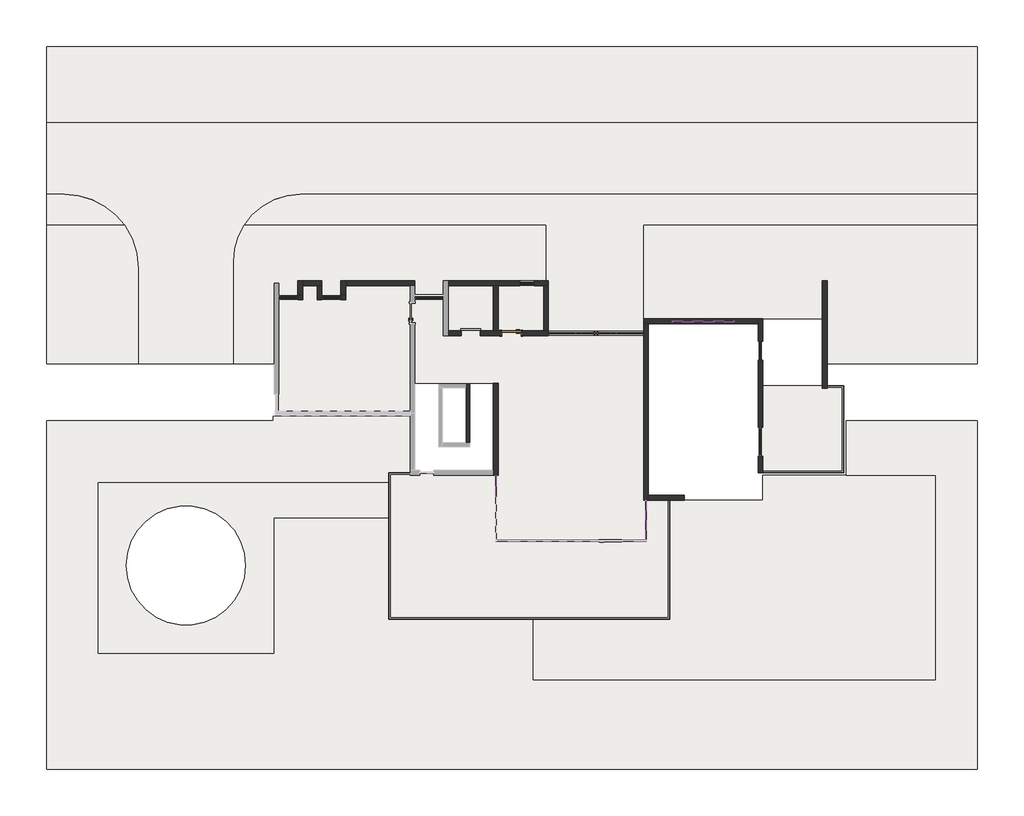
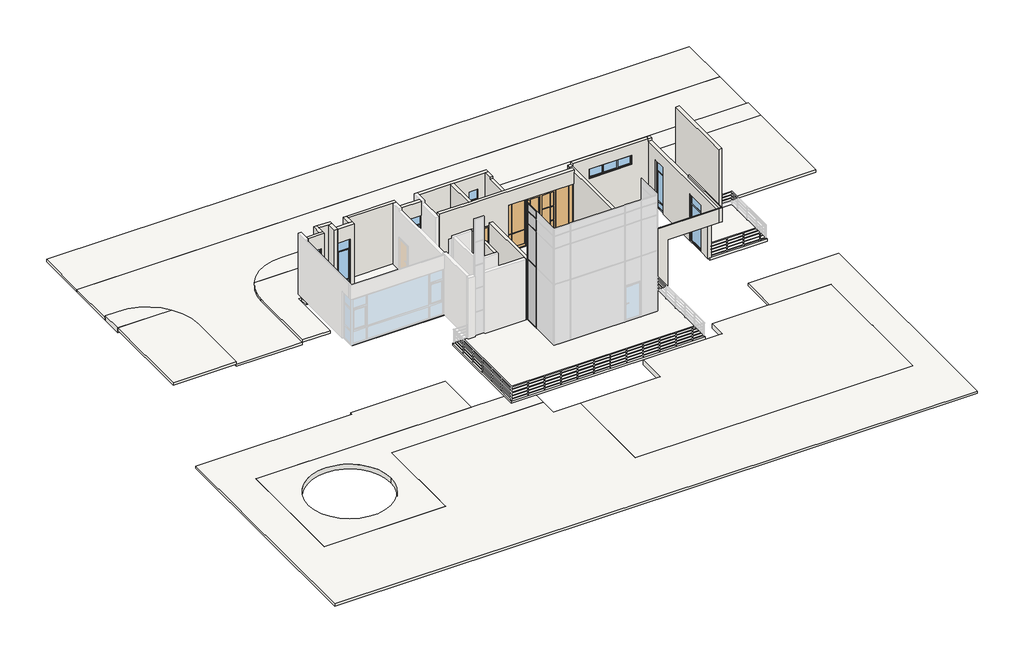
# One storey, part 2 of 4: 19 walls, 14 members, 7 slabs, 7 windows, 4 plates, 2 doors.
"""IFC4 building model written with IfcOpenShell, lengths in millimetres."""

from ifc_helpers import new_model, si_unit, point, frame, frame_2d, origin, origin_with_axes, place, context, project, spatial, polyline, circle_curve, trimmed, segment, composite_curve, outline, extrude, faceted_brep, transform, mapped, element, save
from components import m0921_1d156f18, mlc4030_d43cdeba, mlc4030_f3af6898, mlc4030_237699f2, member_050b8304, member_364816fe, member_d9064eb3, member_c456a22c, member_f9daae58, member_d54f5d39, member_5fb01ee3, member_a96ad222, member_d0a898d2, member_633aa1a8, member_63391c1b, plate_da5828c7, plate_ef581a69, plate_3ef9a45c, plate_da88b804, c0630_fb5b9edb, c0830_e6cf9a24, c1230_67e573e4, c2606_43b70124

model = new_model("IFC4")

# Units and contexts
model_context = context("Model", 3, world=origin())
ifc_project = project(units=[si_unit("LENGTHUNIT", "METRE", prefix="MILLI")], contexts=[model_context])

# Site, building, storey
site = spatial("IfcSite", under=ifc_project)
building = spatial("IfcBuilding", under=site)
storey = spatial("IfcBuildingStorey", under=building, Name="首层", Elevation=0.0)

# Doors
placement = place(None, origin())
m0921_shape = m0921_1d156f18(model_context)
element("IfcDoor", 1, ObjectType="单嵌板木门 1 : M0921", at=placement, inside=storey, context=model_context, shape_type="MappedRepresentation", body=[
    mapped(m0921_shape, transform((1859.0524305, -1121.4172231, 0.0), x_axis=(-1.0, 0.0, 0.0), y_axis=(0.0, -1.0, 0.0), z_axis=(0.0, 0.0, 1.0))),
])
mlc4030_shape = mlc4030_d43cdeba(model_context)
mlc4030_2_shape = mlc4030_f3af6898(model_context)
mlc4030_3_shape = mlc4030_237699f2(model_context)
element("IfcDoor", 2, ObjectType="双面嵌板连窗玻璃门 4 : MLC4030", at=placement, inside=storey, context=model_context, shape_type="MappedRepresentation", body=[
    mapped(mlc4030_shape, transform((5409.0524305, -1121.4172231, 0.0), x_axis=(-1.0, 0.0, 0.0), y_axis=(0.0, -1.0, 0.0), z_axis=(0.0, 0.0, 1.0))),
    mapped(mlc4030_2_shape, transform((5409.0524305, -1121.4172231, 0.0), x_axis=(-1.0, 0.0, 0.0), y_axis=(0.0, -1.0, 0.0), z_axis=(0.0, 0.0, 1.0))),
    mapped(mlc4030_3_shape, transform((5409.0524305, -1121.4172231, 0.0), x_axis=(-1.0, 0.0, 0.0), y_axis=(0.0, -1.0, 0.0), z_axis=(0.0, 0.0, 1.0))),
])

# Members
member_shape = member_050b8304(model_context)
element("IfcMember", 3, ObjectType="矩形竖梃 : 30mm 正方形", at=placement, inside=storey, context=model_context, shape_type="MappedRepresentation", body=[
    mapped(member_shape, transform((1209.0524305, -7988.0838897, 3900.0), x_axis=(0.0, -1.0, 0.0), y_axis=(-1.0, 0.0, 0.0), z_axis=(0.0, 0.0, -1.0))),
])
member_2_shape = member_364816fe(model_context)
element("IfcMember", 4, ObjectType="矩形竖梃 : 30mm 正方形", at=placement, inside=storey, context=model_context, shape_type="MappedRepresentation", body=[
    mapped(member_2_shape, transform((1209.0524305, -7071.4172231, 6200.0), x_axis=(0.0, 1.0, 0.0), y_axis=(-1.0, 0.0, 0.0), z_axis=(0.0, 0.0, 1.0))),
])
member_3_shape = member_d9064eb3(model_context)
element("IfcMember", 5, ObjectType="矩形竖梃 : 30mm 正方形", at=placement, inside=storey, context=model_context, shape_type="MappedRepresentation", body=[
    mapped(member_3_shape, transform((1209.0524305, -7988.0838897, 7000.0), x_axis=(0.0, -1.0, 0.0), y_axis=(-1.0, 0.0, 0.0), z_axis=(0.0, 0.0, -1.0))),
])
member_4_shape = member_c456a22c(model_context)
element("IfcMember", 6, ObjectType="矩形竖梃 : 30mm 正方形", at=placement, inside=storey, context=model_context, shape_type="MappedRepresentation", body=[
    mapped(member_4_shape, transform((1209.0524305, -7071.4172231, 7500.0), x_axis=(0.0, 1.0, 0.0), y_axis=(-1.0, 0.0, 0.0), z_axis=(0.0, 0.0, 1.0))),
])
member_5_shape = member_f9daae58(model_context)
element("IfcMember", 7, ObjectType="矩形竖梃 : 30mm 正方形", at=placement, inside=storey, context=model_context, shape_type="MappedRepresentation", body=[
    mapped(member_5_shape, transform((1209.0524305, -7988.0838897, 6200.0), x_axis=(0.0, -1.0, 0.0), y_axis=(-1.0, 0.0, 0.0), z_axis=(0.0, 0.0, -1.0))),
])
member_6_shape = member_d54f5d39(model_context)
element("IfcMember", 8, ObjectType="矩形竖梃 : 30mm 正方形", at=placement, inside=storey, context=model_context, shape_type="MappedRepresentation", body=[
    mapped(member_6_shape, transform((1209.0524305, -7071.4172231, 7000.0), x_axis=(0.0, 1.0, 0.0), y_axis=(-1.0, 0.0, 0.0), z_axis=(0.0, 0.0, 1.0))),
])
member_7_shape = member_5fb01ee3(model_context)
element("IfcMember", 9, ObjectType="矩形竖梃 : 30mm 正方形", at=placement, inside=storey, context=model_context, shape_type="MappedRepresentation", body=[
    mapped(member_7_shape, transform((1209.0524305, -7101.4172231, 0.0), x_axis=(0.0, 0.0, -1.0), y_axis=(-1.0, 0.0, 0.0), z_axis=(0.0, 1.0, 0.0))),
])
element("IfcMember", 10, ObjectType="矩形竖梃 : 30mm 正方形", at=placement, inside=storey, context=model_context, shape_type="MappedRepresentation", body=[
    mapped(member_7_shape, transform((1209.0524305, -7973.0838897, 7500.0), x_axis=(0.0, 0.0, 1.0), y_axis=(-1.0, 0.0, 0.0), z_axis=(0.0, -1.0, 0.0))),
])
member_8_shape = member_a96ad222(model_context)
element("IfcMember", 11, ObjectType="矩形竖梃 : 30mm 正方形", at=placement, inside=storey, context=model_context, shape_type="MappedRepresentation", body=[
    mapped(member_8_shape, transform((1209.0524305, -7988.0838897, 0.0), x_axis=(0.0, -1.0, 0.0), y_axis=(-1.0, 0.0, 0.0), z_axis=(0.0, 0.0, -1.0))),
])
member_9_shape = member_d0a898d2(model_context)
element("IfcMember", 12, ObjectType="矩形竖梃 : 30mm 正方形", at=placement, inside=storey, context=model_context, shape_type="MappedRepresentation", body=[
    mapped(member_9_shape, transform((1209.0524305, -7973.0838897, 3900.0), x_axis=(0.0, 0.0, 1.0), y_axis=(-1.0, 0.0, 0.0), z_axis=(0.0, -1.0, 0.0))),
])
element("IfcMember", 13, ObjectType="矩形竖梃 : 30mm 正方形", at=placement, inside=storey, context=model_context, shape_type="MappedRepresentation", body=[
    mapped(member_9_shape, transform((1209.0524305, -7973.0838897, 6200.0), x_axis=(0.0, 0.0, 1.0), y_axis=(-1.0, 0.0, 0.0), z_axis=(0.0, -1.0, 0.0))),
])
element("IfcMember", 14, ObjectType="矩形竖梃 : 30mm 正方形", at=placement, inside=storey, context=model_context, shape_type="MappedRepresentation", body=[
    mapped(member_9_shape, transform((1209.0524305, -7973.0838897, 7000.0), x_axis=(0.0, 0.0, 1.0), y_axis=(-1.0, 0.0, 0.0), z_axis=(0.0, -1.0, 0.0))),
])
member_10_shape = member_633aa1a8(model_context)
element("IfcMember", 15, ObjectType="矩形竖梃 : 30mm 正方形", at=placement, inside=storey, context=model_context, shape_type="MappedRepresentation", body=[
    mapped(member_10_shape, transform((1209.0524305, -7071.4172231, 3900.0), x_axis=(0.0, 1.0, 0.0), y_axis=(-1.0, 0.0, 0.0), z_axis=(0.0, 0.0, 1.0))),
])
member_11_shape = member_63391c1b(model_context)
element("IfcMember", 16, ObjectType="矩形竖梃 : 30mm 正方形", at=placement, inside=storey, context=model_context, shape_type="MappedRepresentation", body=[
    mapped(member_11_shape, transform((7509.0524305, -8151.4172231, 3900.0), x_axis=(0.0, 0.0, 1.0), y_axis=(1.0, 0.0, 0.0), z_axis=(0.0, 1.0, 0.0))),
])

# Plates
plate_shape = plate_da5828c7(model_context)
element("IfcPlate", 17, ObjectType="系统嵌板 : 玻璃", at=placement, inside=storey, context=model_context, shape_type="MappedRepresentation", body=[
    mapped(plate_shape, transform((1209.0524305, -7537.2505564, 30.0), x_axis=(0.0, -1.0, 0.0), y_axis=(1.0, 0.0, 0.0), z_axis=(0.0, 0.0, 1.0))),
])
plate_2_shape = plate_ef581a69(model_context)
element("IfcPlate", 18, ObjectType="系统嵌板 : 玻璃", at=placement, inside=storey, context=model_context, shape_type="MappedRepresentation", body=[
    mapped(plate_2_shape, transform((1209.0524305, -7537.2505564, 3915.0), x_axis=(0.0, -1.0, 0.0), y_axis=(1.0, 0.0, 0.0), z_axis=(0.0, 0.0, 1.0))),
])
plate_3_shape = plate_3ef9a45c(model_context)
element("IfcPlate", 19, ObjectType="系统嵌板 : 玻璃", at=placement, inside=storey, context=model_context, shape_type="MappedRepresentation", body=[
    mapped(plate_3_shape, transform((1209.0524305, -7537.2505564, 6215.0), x_axis=(0.0, -1.0, 0.0), y_axis=(1.0, 0.0, 0.0), z_axis=(0.0, 0.0, 1.0))),
])
plate_4_shape = plate_da88b804(model_context)
element("IfcPlate", 20, ObjectType="系统嵌板 : 玻璃", at=placement, inside=storey, context=model_context, shape_type="MappedRepresentation", body=[
    mapped(plate_4_shape, transform((1209.0524305, -7537.2505564, 7015.0), x_axis=(0.0, -1.0, 0.0), y_axis=(1.0, 0.0, 0.0), z_axis=(0.0, 0.0, 1.0))),
])

# Slabs
element("IfcSlab", 21, ObjectType="楼板", at=placement, inside=storey, context=model_context, shape_type="SweptSolid", body=[
    extrude(outline(polyline([(-7890.9475695, 278.5827769), (-6890.9475695, 278.5827769), (-6890.9475695, 878.5827769), (-6290.9475695, 878.5827769), (-6290.9475695, 278.5827769), (-5090.9475695, 278.5827769), (-5090.9475695, 878.5827769), (-2390.9475695, 878.5827769), (-2390.9475695, 278.5827769), (-790.9475695, 278.5827769), (-790.9475695, 878.5827769), (3209.0524305, 878.5827769), (3209.0524305, -1221.4172231), (7409.0524305, -1221.4172231), (7409.0524305, -7921.4172231), (8509.0524305, -7921.4172231), (8509.0524305, -13121.4172231), (-3290.9475695, -13121.4172231), (-3290.9475695, -6971.4172231), (1309.0524305, -6971.4172231), (1309.0524305, -3221.4172231), (-2190.9475695, -3221.4172231), (-2190.9475695, -4371.4172231), (-7890.9475695, -4371.4172231), (-7890.9475695, 278.5827769)])), frame((0.0, 0.0, -150.0), z_axis=(0.0, 0.0, 1.0), x_axis=(1.0, 0.0, 0.0)), (0.0, 0.0, 1.0), 150.0),
    extrude(outline(polyline([(15809.0524305, -6971.4172231), (12309.0524305, -6971.4172231), (12309.0524305, -3321.4172231), (15809.0524305, -3321.4172231), (15809.0524305, -6971.4172231)])), frame((0.0, 0.0, -150.0), z_axis=(0.0, 0.0, 1.0), x_axis=(1.0, 0.0, 0.0)), (0.0, 0.0, 1.0), 150.0),
])
element("IfcSlab", 22, ObjectType="机动车道", at=placement, inside=storey, context=model_context, shape_type="SweptSolid", body=[
    extrude(outline(composite_curve([segment(trimmed(circle_curve(frame_2d((-6990.9475695, 1905.3938751)), 2800.0), [point((-6990.9475695, 4705.3938751))], [point((-9790.9475695, 1905.3938751))], True, "CARTESIAN"), True, "CONTINUOUS"), segment(polyline([(-9790.9475695, 1905.3938751), (-9790.9475695, -2399.667228), (-13790.9475695, -2399.667228), (-13790.9475695, 1605.3938751)]), True, "CONTINUOUS"), segment(trimmed(circle_curve(frame_2d((-16890.9475695, 1605.3938751)), 3100.0), [point((-13790.9475695, 1605.3938751))], [point((-16890.9475695, 4705.3938751))], True, "CARTESIAN"), True, "CONTINUOUS"), segment(polyline([(-16890.9475695, 4705.3938751), (-17638.1244796, 4705.3938751), (-17638.1244796, 7705.3938751), (21409.0524305, 7705.3938751), (21409.0524305, 4705.3938751), (-6990.9475695, 4705.3938751)]), True, "CONTINUOUS")], self_intersect=False)), frame((0.0, 0.0, -600.0), z_axis=(0.0, 0.0, 1.0), x_axis=(1.0, 0.0, 0.0)), (0.0, 0.0, 1.0), 150.0),
])
element("IfcSlab", 23, ObjectType="绿化", at=placement, inside=storey, context=model_context, shape_type="SweptSolid", body=[
    extrude(outline(polyline([(21409.0524305, 7705.3938751), (-17638.1244796, 7705.3938751), (-17638.1244796, 10905.3938751), (21409.0524305, 10905.3938751), (21409.0524305, 7705.3938751)])), frame((0.0, 0.0, -600.0), z_axis=(0.0, 0.0, 1.0), x_axis=(1.0, 0.0, 0.0)), (0.0, 0.0, 1.0), 150.0),
])
element("IfcSlab", 24, ObjectType="人行道", at=placement, inside=storey, context=model_context, shape_type="SweptSolid", body=[
    extrude(outline(composite_curve([segment(polyline([(-17638.1244796, 3405.3938751), (-17638.1244796, 4705.3938751), (-16890.9475695, 4705.3938751)]), True, "CONTINUOUS"), segment(trimmed(circle_curve(frame_2d((-16890.9475695, 1605.3938751)), 3100.0), [point((-16890.9475695, 4705.3938751))], [point((-14367.0616767, 3405.3938751))], False, "CARTESIAN"), True, "CONTINUOUS"), segment(polyline([(-14367.0616767, 3405.3938751), (-17638.1244796, 3405.3938751)]), True, "CONTINUOUS")], self_intersect=False)), frame((0.0, 0.0, -600.0), z_axis=(0.0, 0.0, 1.0), x_axis=(1.0, 0.0, 0.0)), (0.0, 0.0, 1.0), 300.0),
    extrude(outline(composite_curve([segment(polyline([(3309.0524305, 3405.3938751), (-9355.265653, 3405.3938751)]), True, "CONTINUOUS"), segment(trimmed(circle_curve(frame_2d((-6990.9475695, 1905.3938751)), 2800.0), [point((-9355.265653, 3405.3938751))], [point((-6990.9475695, 4705.3938751))], False, "CARTESIAN"), True, "CONTINUOUS"), segment(polyline([(-6990.9475695, 4705.3938751), (21409.0524305, 4705.3938751), (21409.0524305, 3405.3938751), (7409.0524305, 3405.3938751), (7409.0524305, -1021.4172231), (3309.0524305, -1021.4172231), (3309.0524305, 3405.3938751)]), True, "CONTINUOUS")], self_intersect=False)), frame((0.0, 0.0, -600.0), z_axis=(0.0, 0.0, 1.0), x_axis=(1.0, 0.0, 0.0)), (0.0, 0.0, 1.0), 300.0),
])
element("IfcSlab", 25, ObjectType="绿化", at=placement, inside=storey, context=model_context, shape_type="SweptSolid", body=[
    extrude(outline(composite_curve([segment(trimmed(circle_curve(frame_2d((-16890.9475695, 1605.3938751)), 3100.0), [point((-14367.0616767, 3405.3938751))], [point((-13790.9475695, 1605.3938751))], False, "CARTESIAN"), True, "CONTINUOUS"), segment(polyline([(-13790.9475695, 1605.3938751), (-13790.9475695, -2399.667228), (-17638.1244796, -2399.667228), (-17638.1244796, 3405.3938751), (-14367.0616767, 3405.3938751)]), True, "CONTINUOUS")], self_intersect=False)), frame((0.0, 0.0, -450.0), z_axis=(0.0, 0.0, 1.0), x_axis=(1.0, 0.0, 0.0)), (0.0, 0.0, 1.0), 150.0),
    extrude(outline(composite_curve([segment(polyline([(-8090.9475695, -2399.667228), (-9790.9475695, -2399.667228), (-9790.9475695, 1905.3938751)]), True, "CONTINUOUS"), segment(trimmed(circle_curve(frame_2d((-6990.9475695, 1905.3938751)), 2800.0), [point((-9790.9475695, 1905.3938751))], [point((-9355.265653, 3405.3938751))], False, "CARTESIAN"), True, "CONTINUOUS"), segment(polyline([(-9355.265653, 3405.3938751), (3309.0524305, 3405.3938751), (3309.0524305, 1105.3938751), (-990.9475695, 1105.3938751), (-990.9475695, 505.3938751), (-2190.9475695, 505.3938751), (-2190.9475695, 1078.5827769), (-5290.9475695, 1078.5827769), (-5290.9475695, 478.5827769), (-6090.6982006, 478.5827769), (-6090.6982006, 1078.5827769), (-7090.9475695, 1078.5827769), (-7090.9475695, 478.5827769), (-7890.9475695, 478.5827769), (-7890.9475695, 978.5827769), (-8090.9475695, 978.5827769), (-8090.9475695, -2399.667228)]), True, "CONTINUOUS")], self_intersect=False)), frame((0.0, 0.0, -450.0), z_axis=(0.0, 0.0, 1.0), x_axis=(1.0, 0.0, 0.0)), (0.0, 0.0, 1.0), 150.0),
    extrude(outline(polyline([(7409.0524305, 3405.3938751), (21409.0524305, 3405.3938751), (21409.0524305, -2399.667228), (15109.0524305, -2399.667228), (15109.0524305, -521.4172231), (7409.0524305, -521.4172231), (7409.0524305, 3405.3938751)])), frame((0.0, 0.0, -450.0), z_axis=(0.0, 0.0, 1.0), x_axis=(1.0, 0.0, 0.0)), (0.0, 0.0, 1.0), 150.0),
])
element("IfcSlab", 26, ObjectType="人行道", at=placement, inside=storey, context=model_context, shape_type="SweptSolid", body=[
    extrude(outline(polyline([(-15490.9475695, -7371.4172231), (1109.0524305, -7371.4172231), (1109.0524305, -8871.4172231), (-8090.9475695, -8871.4172231), (-8090.9475695, -14571.4172231), (-15490.9475695, -14571.4172231), (-15490.9475695, -7371.4172231)]), holes=[composite_curve([segment(trimmed(circle_curve(frame_2d((-11793.5329749, -10858.0316688)), 2500.0), [point((-14293.5329749, -10858.0316688))], [point((-9293.5329749, -10858.0316688))], True, "CARTESIAN"), True, "CONTINUOUS"), segment(trimmed(circle_curve(frame_2d((-11793.5329749, -10858.0316688)), 2500.0), [point((-9293.5329749, -10858.0316688))], [point((-14293.5329749, -10858.0316688))], True, "CARTESIAN"), True, "CONTINUOUS")], self_intersect=False)]), frame((0.0, 0.0, -4500.0), z_axis=(0.0, 0.0, 1.0), x_axis=(1.0, 0.0, 0.0)), (0.0, 0.0, 1.0), 300.0),
    extrude(outline(polyline([(2759.0524305, -15683.9172231), (2759.0524305, -9921.4172231), (7609.0524305, -9921.4172231), (7609.0524305, -8121.4172231), (12409.0524305, -8121.4172231), (12409.0524305, -7071.4172231), (19659.0524305, -7071.4172231), (19659.0524305, -15683.9172231), (2759.0524305, -15683.9172231)])), frame((0.0, 0.0, -4500.0), z_axis=(0.0, 0.0, 1.0), x_axis=(1.0, 0.0, 0.0)), (0.0, 0.0, 1.0), 300.0),
])
element("IfcSlab", 27, ObjectType="绿化", at=placement, inside=storey, context=model_context, shape_type="SweptSolid", body=[
    extrude(outline(polyline([(-17638.1244796, -19399.667228), (-17638.1244796, -4799.667228), (-8130.9475695, -4799.667228), (-8130.9475695, -4611.4172231), (-2390.9475695, -4611.4172231), (-2390.9475695, -7371.4172231), (-15490.9475695, -7371.4172231), (-15490.9475695, -14571.4172231), (-8090.9475695, -14571.4172231), (-8090.9475695, -8871.4172231), (1109.0524305, -8871.4172231), (1109.0524305, -9921.4172231), (2759.0524305, -9921.4172231), (2759.0524305, -15683.9172231), (19659.0524305, -15683.9172231), (19659.0524305, -7071.4172231), (15909.0524305, -7071.4172231), (15909.0524305, -4799.667228), (21409.0524305, -4799.667228), (21409.0524305, -19399.667228), (-17638.1244796, -19399.667228)])), frame((0.0, 0.0, -4350.0), z_axis=(0.0, 0.0, 1.0), x_axis=(1.0, 0.0, 0.0)), (0.0, 0.0, 1.0), 150.0),
])

# Walls
element("IfcWall", 28, ObjectType="外墙", at=placement, inside=storey, context=model_context, shape_type="Brep", body=[
    faceted_brep([(12209.0524305, -8121.4172231, 3000.0), (12209.0524305, -8121.4172231, 3900.0), (12209.0524305, -8061.4172231, 3900.0), (12209.0524305, -8061.4172231, 3750.0), (12209.0524305, -7921.4172231, 3750.0), (12209.0524305, -721.4172231, 3750.0), (12209.0524305, -721.4172231, 3900.0), (12209.0524305, -521.4172231, 3900.0), (12209.0524305, -521.4172231, 0.0), (12209.0524305, -721.4172231, 0.0), (12209.0524305, -1461.4172231, 0.0), (12209.0524305, -1461.4172231, 3000.0), (12209.0524305, -2261.4172231, 3000.0), (12209.0524305, -2261.4172231, 0.0), (12209.0524305, -5071.4172231, 0.0), (12209.0524305, -5071.4172231, 3000.0), (12209.0524305, -6271.4172231, 3000.0), (12209.0524305, -6271.4172231, 0.0), (12209.0524305, -6971.4172231, 0.0), (12209.0524305, -6971.4172231, 3000.0), (12209.0524305, -7921.4172231, 3000.0), (12209.0524305, -8021.4172231, 3000.0), (12409.0524305, -8121.4172231, 3900.0), (12409.0524305, -8121.4172231, 3000.0), (12409.0524305, -8021.4172231, 3000.0), (12409.0524305, -6971.4172231, 3000.0), (12409.0524305, -6971.4172231, 0.0), (12409.0524305, -6271.4172231, 0.0), (12409.0524305, -6271.4172231, 3000.0), (12409.0524305, -5071.4172231, 3000.0), (12409.0524305, -5071.4172231, 0.0), (12409.0524305, -2261.4172231, 0.0), (12409.0524305, -2261.4172231, 3000.0), (12409.0524305, -1461.4172231, 3000.0), (12409.0524305, -1461.4172231, 0.0), (12409.0524305, -521.4172231, 0.0), (12409.0524305, -521.4172231, 3900.0), (12409.0524305, -721.4172231, 3900.0), (12409.0524305, -721.4172231, 3750.0), (12409.0524305, -4661.4172231, 3750.0), (12409.0524305, -4661.4172231, 3900.0), (12349.0524305, -4661.4172231, 3900.0), (12349.0524305, -8061.4172231, 3900.0), (12349.0524305, -8061.4172231, 3750.0), (12349.0524305, -4661.4172231, 3750.0)], [[[0, 1, 2, 3, 4, 5, 6, 7, 8, 9, 10, 11, 12, 13, 14, 15, 16, 17, 18, 19, 20, 21]], [[22, 23, 24, 25, 26, 27, 28, 29, 30, 31, 32, 33, 34, 35, 36, 37, 38, 39, 40]], [[1, 0, 23, 22]], [[8, 7, 36, 35]], [[8, 35, 34, 10, 9]], [[26, 18, 17, 27]], [[30, 14, 13, 31]], [[1, 22, 40, 41, 42, 2]], [[36, 7, 6, 37]], [[19, 18, 26, 25]], [[19, 25, 24, 23, 0, 21, 20]], [[43, 44, 39, 38, 5, 4, 3]], [[5, 38, 37, 6]], [[44, 43, 42, 41]], [[42, 43, 3, 2]], [[44, 41, 40, 39]], [[29, 15, 14, 30]], [[15, 29, 28, 16]], [[16, 28, 27, 17]], [[33, 11, 10, 34]], [[11, 33, 32, 12]], [[12, 32, 31, 13]]]),
])
element("IfcWall", 29, ObjectType="外墙", at=placement, inside=storey, context=model_context, shape_type="Brep", body=[
    faceted_brep([(9109.0524305, -7921.4172231, 0.0), (7609.0524305, -7921.4172231, 0.0), (7609.0524305, -7921.4172231, 3750.0), (12209.0524305, -7921.4172231, 3750.0), (12209.0524305, -7921.4172231, 3000.0), (9109.0524305, -7921.4172231, 3000.0), (7609.0524305, -8121.4172231, 0.0), (9109.0524305, -8121.4172231, 0.0), (9109.0524305, -8121.4172231, 3000.0), (12209.0524305, -8121.4172231, 3000.0), (12209.0524305, -8121.4172231, 3900.0), (7609.0524305, -8121.4172231, 3900.0), (12209.0524305, -8061.4172231, 3750.0), (12209.0524305, -8061.4172231, 3900.0), (7609.0524305, -8061.4172231, 3900.0), (7609.0524305, -8061.4172231, 3750.0)], [[[0, 1, 2, 3, 4, 5]], [[6, 7, 8, 9, 10, 11]], [[10, 9, 4, 3, 12, 13]], [[6, 11, 14, 15, 2, 1]], [[1, 0, 7, 6]], [[11, 10, 13, 14]], [[5, 4, 9, 8]], [[0, 5, 8, 7]], [[15, 12, 3, 2]], [[12, 15, 14, 13]]]),
])
element("IfcWall", 30, ObjectType="外墙", at=placement, inside=storey, context=model_context, shape_type="Brep", body=[
    faceted_brep([(7409.0524305, -721.4172231, 0.0), (7409.0524305, -8121.4172231, 0.0), (7409.0524305, -8121.4172231, 3900.0), (7409.0524305, -8061.4172231, 3900.0), (7409.0524305, -8061.4172231, 3750.0), (7409.0524305, -3221.4172231, 3750.0), (7409.0524305, -721.4172231, 3750.0), (7609.0524305, -8121.4172231, 0.0), (7609.0524305, -7921.4172231, 0.0), (7609.0524305, -721.4172231, 0.0), (7609.0524305, -721.4172231, 3750.0), (7609.0524305, -7921.4172231, 3750.0), (7609.0524305, -8061.4172231, 3750.0), (7609.0524305, -8061.4172231, 3900.0), (7609.0524305, -8121.4172231, 3900.0)], [[[0, 1, 2, 3, 4, 5, 6]], [[7, 8, 9, 10, 11, 12, 13, 14]], [[0, 9, 8, 7, 1]], [[2, 14, 13, 3]], [[9, 0, 6, 10]], [[4, 12, 11, 10, 6, 5]], [[2, 1, 7, 14]], [[12, 4, 3, 13]]]),
])
element("IfcWall", 31, ObjectType="外墙", at=placement, inside=storey, context=model_context, shape_type="Brep", body=[
    faceted_brep([(1309.0524305, -3221.4172231, 0.0), (1309.0524305, -3221.4172231, 3900.0), (1309.0524305, -7071.4172231, 3900.0), (1309.0524305, -7071.4172231, 0.0), (1109.0524305, -3221.4172231, 3900.0), (1109.0524305, -3221.4172231, 0.0), (1109.0524305, -6871.4172231, 0.0), (1109.0524305, -7071.4172231, 0.0), (1109.0524305, -7071.4172231, 3900.0), (1109.0524305, -6871.4172231, 3900.0)], [[[0, 1, 2, 3]], [[4, 5, 6, 7, 8, 9]], [[5, 0, 3, 7, 6]], [[1, 0, 5, 4]], [[1, 4, 9, 8, 2]], [[3, 2, 8, 7]]]),
])
element("IfcWall", 32, ObjectType="外墙", at=placement, inside=storey, context=model_context, shape_type="Brep", body=[
    faceted_brep([(-6890.9475695, 278.5827769, 3900.0), (-7890.9475695, 278.5827769, 3900.0), (-7890.9475695, 278.5827769, 3750.0), (-7890.9475695, 278.5827769, 0.0), (-7890.6982006, 278.5827769, 0.0), (-7890.6982006, 278.5827769, 3000.0), (-7090.6982006, 278.5827769, 3000.0), (-7090.6982006, 278.5827769, 0.0), (-6890.9475695, 278.5827769, 0.0), (-6890.9475695, 278.5827769, 3750.0), (-7890.9475695, 478.5827769, 3900.0), (-7090.9475695, 478.5827769, 3900.0), (-6890.9475695, 478.5827769, 3900.0), (-6890.9475695, 478.5827769, 3750.0), (-6890.9475695, 478.5827769, 0.0), (-7090.6982006, 478.5827769, 0.0), (-7090.6982006, 478.5827769, 3000.0), (-7890.6982006, 478.5827769, 3000.0), (-7890.6982006, 478.5827769, 0.0), (-7890.9475695, 478.5827769, 0.0)], [[[0, 1, 2, 3, 4, 5, 6, 7, 8, 9]], [[10, 11, 12, 13, 14, 15, 16, 17, 18, 19]], [[3, 19, 18, 4]], [[14, 8, 7, 15]], [[1, 0, 12, 11, 10]], [[1, 10, 19, 3, 2]], [[8, 14, 13, 12, 0, 9]], [[17, 5, 4, 18]], [[5, 17, 16, 6]], [[6, 16, 15, 7]]]),
])
element("IfcWall", 33, ObjectType="外墙", at=placement, inside=storey, context=model_context, shape_type="Brep", body=[
    faceted_brep([(-6890.9475695, 478.5827769, 0.0), (-6890.9475695, 878.5827769, 0.0), (-6890.9475695, 1078.5827769, 0.0), (-6890.9475695, 1078.5827769, 3900.0), (-6890.9475695, 878.5827769, 3900.0), (-6890.9475695, 478.5827769, 3900.0), (-7090.9475695, 478.5827769, 0.0), (-7090.9475695, 478.5827769, 3900.0), (-7090.9475695, 1078.5827769, 3900.0), (-7090.9475695, 1078.5827769, 0.0)], [[[0, 1, 2, 3, 4, 5]], [[6, 7, 8, 9]], [[2, 1, 0, 6, 9]], [[5, 4, 3, 8, 7]], [[0, 5, 7, 6]], [[3, 2, 9, 8]]]),
])
element("IfcWall", 34, ObjectType="外墙", at=placement, inside=storey, context=model_context, shape_type="Brep", body=[
    faceted_brep([(-6890.9475695, 878.5827769, 0.0), (-6290.9475695, 878.5827769, 0.0), (-6090.9475695, 878.5827769, 0.0), (-6090.9475695, 878.5827769, 3900.0), (-6290.9475695, 878.5827769, 3900.0), (-6890.9475695, 878.5827769, 3900.0), (-6890.9475695, 878.5827769, 3750.0), (-6890.9475695, 1078.5827769, 0.0), (-6890.9475695, 1078.5827769, 3900.0), (-6090.9475695, 1078.5827769, 3900.0), (-6090.9475695, 1078.5827769, 0.0)], [[[0, 1, 2, 3, 4, 5, 6]], [[7, 8, 9, 10]], [[2, 1, 0, 7, 10]], [[5, 4, 3, 9, 8]], [[0, 6, 5, 8, 7]], [[3, 2, 10, 9]]]),
])
element("IfcWall", 35, ObjectType="外墙", at=placement, inside=storey, context=model_context, shape_type="Brep", body=[
    faceted_brep([(-6290.9475695, 878.5827769, 0.0), (-6290.9475695, 278.5827769, 0.0), (-6290.9475695, 278.5827769, 3750.0), (-6290.9475695, 278.5827769, 3900.0), (-6290.9475695, 878.5827769, 3900.0), (-6290.9475695, 878.5827769, 3750.0), (-6090.9475695, 278.5827769, 0.0), (-6090.9475695, 478.5827769, 0.0), (-6090.9475695, 878.5827769, 0.0), (-6090.9475695, 878.5827769, 3900.0), (-6090.9475695, 478.5827769, 3900.0), (-6090.9475695, 278.5827769, 3900.0), (-6090.9475695, 278.5827769, 3750.0)], [[[0, 1, 2, 3, 4, 5]], [[6, 7, 8, 9, 10, 11, 12]], [[1, 0, 8, 7, 6]], [[4, 3, 11, 10, 9]], [[4, 9, 8, 0, 5]], [[1, 6, 12, 11, 3, 2]]]),
])
element("IfcWall", 36, ObjectType="外墙", at=placement, inside=storey, context=model_context, shape_type="Brep", body=[
    faceted_brep([(-5090.9475695, 278.5827769, 3900.0), (-6090.9475695, 278.5827769, 3900.0), (-6090.9475695, 278.5827769, 3750.0), (-6090.9475695, 278.5827769, 0.0), (-6090.6982006, 278.5827769, 0.0), (-6090.6982006, 278.5827769, 3000.0), (-5290.6982006, 278.5827769, 3000.0), (-5290.6982006, 278.5827769, 0.0), (-5090.9475695, 278.5827769, 0.0), (-5090.9475695, 278.5827769, 3750.0), (-6090.9475695, 478.5827769, 3900.0), (-5290.9475695, 478.5827769, 3900.0), (-5090.9475695, 478.5827769, 3900.0), (-5090.9475695, 478.5827769, 3750.0), (-5090.9475695, 478.5827769, 0.0), (-5290.6982006, 478.5827769, 0.0), (-5290.6982006, 478.5827769, 3000.0), (-6090.6982006, 478.5827769, 3000.0), (-6090.6982006, 478.5827769, 0.0), (-6090.9475695, 478.5827769, 0.0)], [[[0, 1, 2, 3, 4, 5, 6, 7, 8, 9]], [[10, 11, 12, 13, 14, 15, 16, 17, 18, 19]], [[3, 19, 18, 4]], [[14, 8, 7, 15]], [[1, 0, 12, 11, 10]], [[1, 10, 19, 3, 2]], [[8, 14, 13, 12, 0, 9]], [[17, 5, 4, 18]], [[5, 17, 16, 6]], [[6, 16, 15, 7]]]),
])
element("IfcWall", 37, ObjectType="外墙", at=placement, inside=storey, context=model_context, shape_type="Brep", body=[
    faceted_brep([(-5090.9475695, 478.5827769, 0.0), (-5090.9475695, 878.5827769, 0.0), (-5090.9475695, 1078.5827769, 0.0), (-5090.9475695, 1078.5827769, 3900.0), (-5090.9475695, 878.5827769, 3900.0), (-5090.9475695, 478.5827769, 3900.0), (-5090.9475695, 478.5827769, 3750.0), (-5290.9475695, 1078.5827769, 0.0), (-5290.9475695, 478.5827769, 0.0), (-5290.9475695, 478.5827769, 3900.0), (-5290.9475695, 1078.5827769, 3900.0)], [[[0, 1, 2, 3, 4, 5, 6]], [[7, 8, 9, 10]], [[2, 1, 0, 8, 7]], [[10, 9, 5, 4, 3]], [[5, 9, 8, 0, 6]], [[3, 2, 7, 10]]]),
])
element("IfcWall", 38, ObjectType="外墙", at=placement, inside=storey, context=model_context, shape_type="Brep", body=[
    faceted_brep([(-5090.9475695, 878.5827769, 0.0), (-2390.9475695, 878.5827769, 0.0), (-2190.9475695, 878.5827769, 0.0), (-2190.9475695, 878.5827769, 3900.0), (-2390.9475695, 878.5827769, 3900.0), (-5090.9475695, 878.5827769, 3900.0), (-5090.9475695, 878.5827769, 3750.0), (-5090.9475695, 1078.5827769, 0.0), (-5090.9475695, 1078.5827769, 3900.0), (-2190.9475695, 1078.5827769, 3900.0), (-2190.9475695, 1078.5827769, 0.0)], [[[0, 1, 2, 3, 4, 5, 6]], [[7, 8, 9, 10]], [[2, 1, 0, 7, 10]], [[5, 4, 3, 9, 8]], [[0, 6, 5, 8, 7]], [[3, 2, 10, 9]]]),
])
element("IfcWall", 39, ObjectType="外墙", at=placement, inside=storey, context=model_context, shape_type="Brep", body=[
    faceted_brep([(-990.9475695, 278.5827769, 3900.0), (-2190.9475695, 278.5827769, 3900.0), (-2190.9475695, 278.5827769, 3750.0), (-2190.9475695, 278.5827769, 0.0), (-2188.2749545, 278.5827769, 0.0), (-2188.2749545, 278.5827769, 3000.0), (-990.9475695, 278.5827769, 3000.0), (-990.9475695, 278.5827769, 3750.0), (-2190.9475695, 478.5827769, 3900.0), (-990.9475695, 478.5827769, 3900.0), (-990.9475695, 478.5827769, 3000.0), (-2188.2749545, 478.5827769, 3000.0), (-2188.2749545, 478.5827769, 0.0), (-2190.9475695, 478.5827769, 0.0)], [[[0, 1, 2, 3, 4, 5, 6, 7]], [[8, 9, 10, 11, 12, 13]], [[3, 13, 12, 4]], [[1, 0, 9, 8]], [[1, 8, 13, 3, 2]], [[9, 0, 7, 6, 10]], [[11, 5, 4, 12]], [[5, 11, 10, 6]]]),
])
element("IfcWall", 40, ObjectType="外墙", at=placement, inside=storey, context=model_context, shape_type="Brep", body=[
    faceted_brep([(3409.0524305, 878.5827769, 3900.0), (3209.0524305, 878.5827769, 3900.0), (1309.0524305, 878.5827769, 3900.0), (1109.0524305, 878.5827769, 3900.0), (-790.9475695, 878.5827769, 3900.0), (-790.9475695, 878.5827769, 0.0), (1109.0524305, 878.5827769, 0.0), (1309.0524305, 878.5827769, 0.0), (2209.0524305, 878.5827769, 0.0), (2209.0524305, 878.5827769, 3000.0), (2809.0524305, 878.5827769, 3000.0), (2809.0524305, 878.5827769, 0.0), (3209.0524305, 878.5827769, 0.0), (3409.0524305, 878.5827769, 0.0), (-790.9475695, 1078.5827769, 3900.0), (3409.0524305, 1078.5827769, 3900.0), (3409.0524305, 1078.5827769, 0.0), (2809.0524305, 1078.5827769, 0.0), (2809.0524305, 1078.5827769, 3000.0), (2209.0524305, 1078.5827769, 3000.0), (2209.0524305, 1078.5827769, 0.0), (-790.9475695, 1078.5827769, 0.0)], [[[0, 1, 2, 3, 4, 5, 6, 7, 8, 9, 10, 11, 12, 13]], [[14, 15, 16, 17, 18, 19, 20, 21]], [[5, 21, 20, 8, 7, 6]], [[16, 13, 12, 11, 17]], [[4, 3, 2, 1, 0, 15, 14]], [[5, 4, 14, 21]], [[0, 13, 16, 15]], [[19, 9, 8, 20]], [[9, 19, 18, 10]], [[10, 18, 17, 11]]]),
])
element("IfcWall", 41, ObjectType="外墙", at=placement, inside=storey, context=model_context, shape_type="Brep", body=[
    faceted_brep([(3209.0524305, 878.5827769, 0.0), (3209.0524305, -1021.4172231, 0.0), (3209.0524305, -1021.4172231, 3750.0), (3209.0524305, 408.5827769, 3750.0), (3209.0524305, 408.5827769, 3900.0), (3209.0524305, 878.5827769, 3900.0), (3209.0524305, 878.5827769, 3750.0), (3409.0524305, -1021.4172231, 0.0), (3409.0524305, 878.5827769, 0.0), (3409.0524305, 878.5827769, 3900.0), (3409.0524305, 408.5827769, 3900.0), (3409.0524305, 408.5827769, 3750.0), (3409.0524305, -1021.4172231, 3750.0)], [[[0, 1, 2, 3, 4, 5, 6]], [[7, 8, 9, 10, 11, 12]], [[1, 0, 8, 7]], [[9, 5, 4, 10]], [[5, 9, 8, 0, 6]], [[1, 7, 12, 2]], [[11, 3, 2, 12]], [[3, 11, 10, 4]]]),
])
element("IfcWall", 42, ObjectType="外墙", at=placement, inside=storey, context=model_context, shape_type="Brep", body=[
    faceted_brep([(-790.9475695, -1021.4172231, 3900.0), (1109.0524305, -1021.4172231, 3900.0), (1309.0524305, -1021.4172231, 3900.0), (7409.0524305, -1021.4172231, 3900.0), (7409.0524305, -1021.4172231, 3000.0), (3409.0524305, -1021.4172231, 3000.0), (3409.0524305, -1021.4172231, 0.0), (3209.0524305, -1021.4172231, 0.0), (2309.0524305, -1021.4172231, 0.0), (2309.0524305, -1021.4172231, 2100.0), (1409.0524305, -1021.4172231, 2100.0), (1409.0524305, -1021.4172231, 0.0), (1309.0524305, -1021.4172231, 0.0), (1109.0524305, -1021.4172231, 0.0), (559.0524305, -1021.4172231, 0.0), (559.0524305, -1021.4172231, 2100.0), (-240.9475695, -1021.4172231, 2100.0), (-240.9475695, -1021.4172231, 0.0), (-790.9475695, -1021.4172231, 0.0), (7409.0524305, -1221.4172231, 3900.0), (-790.9475695, -1221.4172231, 3900.0), (-790.9475695, -1221.4172231, 3750.0), (-790.9475695, -1221.4172231, 0.0), (-240.9475695, -1221.4172231, 0.0), (-240.9475695, -1221.4172231, 2100.0), (559.0524305, -1221.4172231, 2100.0), (559.0524305, -1221.4172231, 0.0), (1409.0524305, -1221.4172231, 0.0), (1409.0524305, -1221.4172231, 2100.0), (2309.0524305, -1221.4172231, 2100.0), (2309.0524305, -1221.4172231, 0.0), (3409.0524305, -1221.4172231, 0.0), (3409.0524305, -1221.4172231, 3000.0), (7409.0524305, -1221.4172231, 3000.0)], [[[0, 1, 2, 3, 4, 5, 6, 7, 8, 9, 10, 11, 12, 13, 14, 15, 16, 17, 18]], [[19, 20, 21, 22, 23, 24, 25, 26, 27, 28, 29, 30, 31, 32, 33]], [[22, 18, 17, 23]], [[6, 31, 30, 8, 7]], [[11, 27, 26, 14, 13, 12]], [[3, 2, 1, 0, 20, 19]], [[0, 18, 22, 21, 20]], [[3, 19, 33, 4]], [[5, 4, 33, 32]], [[5, 32, 31, 6]], [[10, 28, 27, 11]], [[28, 10, 9, 29]], [[29, 9, 8, 30]], [[25, 15, 14, 26]], [[15, 25, 24, 16]], [[16, 24, 23, 17]]]),
])
element("IfcWall", 43, ObjectType="外墙", at=placement, inside=storey, context=model_context, shape_type="SweptSolid", body=[
    extrude(outline(polyline([(1109.0524305, -1021.4172231), (1109.0524305, 878.5827769), (1309.0524305, 878.5827769), (1309.0524305, -1021.4172231), (1109.0524305, -1021.4172231)])), origin_with_axes(), (0.0, 0.0, 1.0), 3900.0),
])
element("IfcWall", 44, ObjectType="外墙", at=placement, inside=storey, context=model_context, shape_type="Brep", body=[
    faceted_brep([(7409.0524305, -721.4172231, 0.0), (7609.0524305, -721.4172231, 0.0), (12209.0524305, -721.4172231, 0.0), (12209.0524305, -721.4172231, 3750.0), (12209.0524305, -721.4172231, 3900.0), (7609.0524305, -721.4172231, 3900.0), (7609.0524305, -721.4172231, 3750.0), (7409.0524305, -721.4172231, 3750.0), (8609.0524305, -721.4172231, 2600.0), (8609.0524305, -721.4172231, 3200.0), (11209.0524305, -721.4172231, 3200.0), (11209.0524305, -721.4172231, 2600.0), (12209.0524305, -521.4172231, 0.0), (7409.0524305, -521.4172231, 0.0), (7409.0524305, -521.4172231, 3750.0), (7609.0524305, -521.4172231, 3750.0), (7609.0524305, -521.4172231, 3900.0), (12209.0524305, -521.4172231, 3900.0), (8609.0524305, -521.4172231, 3200.0), (8609.0524305, -521.4172231, 2600.0), (11209.0524305, -521.4172231, 2600.0), (11209.0524305, -521.4172231, 3200.0)], [[[0, 1, 2, 3, 4, 5, 6, 7], [8, 9, 10, 11]], [[12, 13, 14, 15, 16, 17], [18, 19, 20, 21]], [[2, 1, 0, 13, 12]], [[4, 17, 16, 5]], [[2, 12, 17, 4, 3]], [[13, 0, 7, 14]], [[6, 15, 14, 7]], [[15, 6, 5, 16]], [[9, 8, 19, 18]], [[10, 9, 18, 21]], [[11, 10, 21, 20]], [[8, 11, 20, 19]]]),
])
element("IfcWall", 45, ObjectType="内墙-楼梯间", at=placement, inside=storey, context=model_context, shape_type="Brep", body=[
    faceted_brep([(-40.9475695, -3246.4172231, 0.0), (-40.9475695, -3396.4172231, 0.0), (-40.9475695, -5721.4172231, 0.0), (-40.9475695, -5721.4172231, 3900.0), (-40.9475695, -3396.4172231, 3900.0), (-40.9475695, -3246.4172231, 3900.0), (109.0524305, -3246.4172231, 0.0), (109.0524305, -3246.4172231, 3900.0), (109.0524305, -5721.4172231, 3900.0), (109.0524305, -5721.4172231, 0.0)], [[[0, 1, 2, 3, 4, 5]], [[6, 7, 8, 9]], [[2, 1, 0, 6, 9]], [[5, 4, 3, 8, 7]], [[0, 5, 7, 6]], [[3, 2, 9, 8]]]),
])
element("IfcWall", 46, ObjectType="外墙", at=placement, inside=storey, context=model_context, shape_type="SweptSolid", body=[
    extrude(outline(polyline([(14909.0524305, -3421.4172231), (14909.0524305, 1078.5827769), (15109.0524305, 1078.5827769), (15109.0524305, -3421.4172231), (14909.0524305, -3421.4172231)])), origin_with_axes(), (0.0, 0.0, 1.0), 3900.0),
])

# Windows
c0630_shape = c0630_fb5b9edb(model_context)
element("IfcWindow", 47, ObjectType="组合窗 - 双层单列(固定+推拉) - 副本 : C0630", at=placement, inside=storey, context=model_context, shape_type="MappedRepresentation", body=[
    mapped(c0630_shape, transform((2509.0524305, 978.5827769, -900.0), x_axis=(1.0, 0.0, 0.0), y_axis=(0.0, 1.0, 0.0), z_axis=(0.0, 0.0, 1.0))),
])
c0830_shape = c0830_e6cf9a24(model_context)
element("IfcWindow", 48, ObjectType="组合窗 - 双层单列(固定+推拉) - 副本 : C0830", at=placement, inside=storey, context=model_context, shape_type="MappedRepresentation", body=[
    mapped(c0830_shape, transform((12309.0524305, -1861.4172231, -900.0), x_axis=(0.0, -1.0, 0.0), y_axis=(1.0, 0.0, 0.0), z_axis=(0.0, 0.0, 1.0))),
])
element("IfcWindow", 49, ObjectType="组合窗 - 双层单列(固定+推拉) - 副本 : C0830", at=placement, inside=storey, context=model_context, shape_type="MappedRepresentation", body=[
    mapped(c0830_shape, transform((-7490.6982006, 378.5827769, -900.0), x_axis=(1.0, 0.0, 0.0), y_axis=(0.0, 1.0, 0.0), z_axis=(0.0, 0.0, 1.0))),
])
element("IfcWindow", 50, ObjectType="组合窗 - 双层单列(固定+推拉) - 副本 : C0830", at=placement, inside=storey, context=model_context, shape_type="MappedRepresentation", body=[
    mapped(c0830_shape, transform((-5690.6982006, 378.5827769, -900.0), x_axis=(1.0, 0.0, 0.0), y_axis=(0.0, 1.0, 0.0), z_axis=(0.0, 0.0, 1.0))),
])
c1230_shape = c1230_67e573e4(model_context)
element("IfcWindow", 51, ObjectType="双层单列 : C1230", at=placement, inside=storey, context=model_context, shape_type="MappedRepresentation", body=[
    mapped(c1230_shape, transform((12309.0524305, -5671.4172231, -900.0), x_axis=(0.0, -1.0, 0.0), y_axis=(1.0, 0.0, 0.0), z_axis=(0.0, 0.0, 1.0))),
])
element("IfcWindow", 52, ObjectType="双层单列 : C1230", at=placement, inside=storey, context=model_context, shape_type="MappedRepresentation", body=[
    mapped(c1230_shape, transform((-1588.2749545, 378.5827769, -900.0), x_axis=(1.0, 0.0, 0.0), y_axis=(0.0, 1.0, 0.0), z_axis=(0.0, 0.0, 1.0))),
])
c2606_shape = c2606_43b70124(model_context)
element("IfcWindow", 53, ObjectType="组合窗-三列1 : C2606", at=placement, inside=storey, context=model_context, shape_type="MappedRepresentation", body=[
    mapped(c2606_shape, transform((9909.0524305, -621.4172231, 2000.0), x_axis=(1.0, 0.0, 0.0), y_axis=(0.0, 1.0, 0.0), z_axis=(0.0, 0.0, 1.0))),
])

save(model, "model.ifc")
